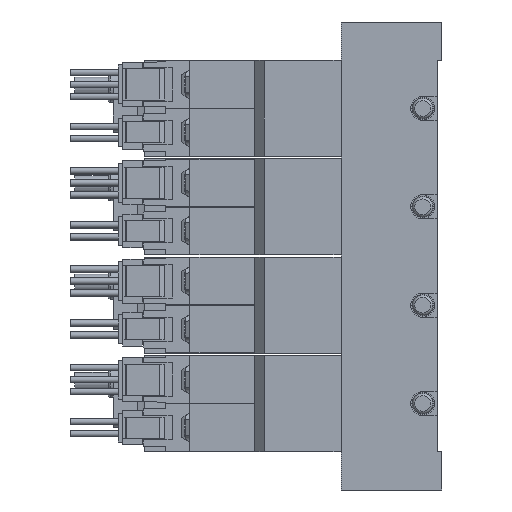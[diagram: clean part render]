
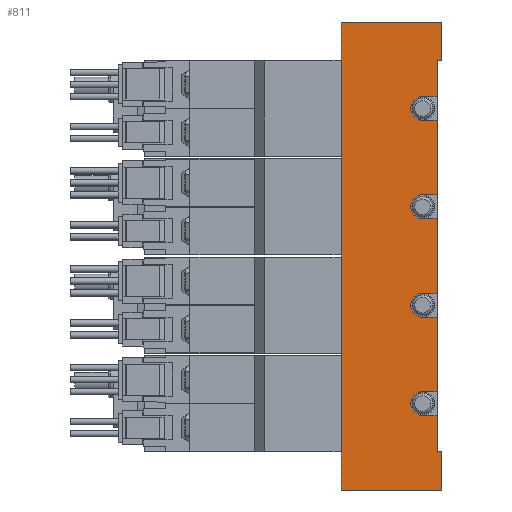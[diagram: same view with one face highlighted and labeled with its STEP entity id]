
A CAD part, left-side view. The second image highlights one B-rep face of the part: STEP entity #811.
In plain terms, the highlighted planar face has unit normal (-1, 0, 0) as drawn and (1, 0, 0) by its records, which use the part's own axes.
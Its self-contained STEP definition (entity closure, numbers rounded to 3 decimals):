
#811=ADVANCED_FACE('',(#1715),#1716,.F.);
#1715=FACE_OUTER_BOUND('',#2777,.T.);
#1716=PLANE('',#2778);
#2777=EDGE_LOOP('',(#6090,#6091,#6092,#6093,#6094,#6095,#6096,#6097,#6098,#6099,#6100,#6101,#6102,#6103,#6104,#6105,#6106,#6107,#6108,#6109,#6110,#6111,#6112,#6113));
#2778=AXIS2_PLACEMENT_3D('',#6114,#6115,#6116);
#6090=ORIENTED_EDGE('',*,*,#7646,.T.);
#6091=ORIENTED_EDGE('',*,*,#7647,.T.);
#6092=ORIENTED_EDGE('',*,*,#7648,.F.);
#6093=ORIENTED_EDGE('',*,*,#7649,.F.);
#6094=ORIENTED_EDGE('',*,*,#7650,.T.);
#6095=ORIENTED_EDGE('',*,*,#7651,.T.);
#6096=ORIENTED_EDGE('',*,*,#7652,.T.);
#6097=ORIENTED_EDGE('',*,*,#7653,.F.);
#6098=ORIENTED_EDGE('',*,*,#7654,.F.);
#6099=ORIENTED_EDGE('',*,*,#7655,.F.);
#6100=ORIENTED_EDGE('',*,*,#7656,.T.);
#6101=ORIENTED_EDGE('',*,*,#7657,.F.);
#6102=ORIENTED_EDGE('',*,*,#7658,.F.);
#6103=ORIENTED_EDGE('',*,*,#7659,.F.);
#6104=ORIENTED_EDGE('',*,*,#7660,.T.);
#6105=ORIENTED_EDGE('',*,*,#7661,.F.);
#6106=ORIENTED_EDGE('',*,*,#7662,.F.);
#6107=ORIENTED_EDGE('',*,*,#7663,.F.);
#6108=ORIENTED_EDGE('',*,*,#7664,.T.);
#6109=ORIENTED_EDGE('',*,*,#7665,.F.);
#6110=ORIENTED_EDGE('',*,*,#7666,.F.);
#6111=ORIENTED_EDGE('',*,*,#7667,.F.);
#6112=ORIENTED_EDGE('',*,*,#7668,.T.);
#6113=ORIENTED_EDGE('',*,*,#7669,.T.);
#6114=CARTESIAN_POINT('',(17.5,1.0,48.75));
#6115=DIRECTION('',(-1.0,0.0,0.0));
#6116=DIRECTION('',(0.0,0.0,1.0));
#7646=EDGE_CURVE('',#9433,#9434,#9435,.T.);
#7647=EDGE_CURVE('',#9434,#9436,#9437,.T.);
#7648=EDGE_CURVE('',#9438,#9436,#9439,.T.);
#7649=EDGE_CURVE('',#9440,#9438,#9441,.T.);
#7650=EDGE_CURVE('',#9440,#9442,#9443,.T.);
#7651=EDGE_CURVE('',#9442,#9444,#9445,.T.);
#7652=EDGE_CURVE('',#9444,#9446,#9447,.T.);
#7653=EDGE_CURVE('',#9448,#9446,#9449,.T.);
#7654=EDGE_CURVE('',#9450,#9448,#9451,.T.);
#7655=EDGE_CURVE('',#9452,#9450,#9453,.T.);
#7656=EDGE_CURVE('',#9452,#9454,#9455,.T.);
#7657=EDGE_CURVE('',#9456,#9454,#9457,.T.);
#7658=EDGE_CURVE('',#9458,#9456,#9459,.T.);
#7659=EDGE_CURVE('',#9460,#9458,#9461,.T.);
#7660=EDGE_CURVE('',#9460,#9462,#9463,.T.);
#7661=EDGE_CURVE('',#9464,#9462,#9465,.T.);
#7662=EDGE_CURVE('',#9466,#9464,#9467,.T.);
#7663=EDGE_CURVE('',#9468,#9466,#9469,.T.);
#7664=EDGE_CURVE('',#9468,#9470,#9471,.T.);
#7665=EDGE_CURVE('',#9472,#9470,#9473,.T.);
#7666=EDGE_CURVE('',#9474,#9472,#9475,.T.);
#7667=EDGE_CURVE('',#9476,#9474,#9477,.T.);
#7668=EDGE_CURVE('',#9476,#9478,#9479,.T.);
#7669=EDGE_CURVE('',#9478,#9433,#9480,.T.);
#9433=VERTEX_POINT('',#12375);
#9434=VERTEX_POINT('',#12376);
#9435=LINE('',#12377,#12378);
#9436=VERTEX_POINT('',#12379);
#9437=LINE('',#12380,#12381);
#9438=VERTEX_POINT('',#12382);
#9439=LINE('',#12383,#12384);
#9440=VERTEX_POINT('',#12385);
#9441=LINE('',#12386,#12387);
#9442=VERTEX_POINT('',#12388);
#9443=LINE('',#12389,#12390);
#9444=VERTEX_POINT('',#12391);
#9445=LINE('',#12392,#12393);
#9446=VERTEX_POINT('',#12394);
#9447=LINE('',#12395,#12396);
#9448=VERTEX_POINT('',#12397);
#9449=LINE('',#12398,#12399);
#9450=VERTEX_POINT('',#12400);
#9451=CIRCLE('',#12401,2.5);
#9452=VERTEX_POINT('',#12402);
#9453=LINE('',#12403,#12404);
#9454=VERTEX_POINT('',#12405);
#9455=LINE('',#12406,#12407);
#9456=VERTEX_POINT('',#12408);
#9457=LINE('',#12409,#12410);
#9458=VERTEX_POINT('',#12411);
#9459=CIRCLE('',#12412,2.5);
#9460=VERTEX_POINT('',#12413);
#9461=LINE('',#12414,#12415);
#9462=VERTEX_POINT('',#12416);
#9463=LINE('',#12417,#12418);
#9464=VERTEX_POINT('',#12419);
#9465=LINE('',#12420,#12421);
#9466=VERTEX_POINT('',#12422);
#9467=CIRCLE('',#12423,2.5);
#9468=VERTEX_POINT('',#12424);
#9469=LINE('',#12425,#12426);
#9470=VERTEX_POINT('',#12427);
#9471=LINE('',#12428,#12429);
#9472=VERTEX_POINT('',#12430);
#9473=LINE('',#12431,#12432);
#9474=VERTEX_POINT('',#12433);
#9475=CIRCLE('',#12434,2.5);
#9476=VERTEX_POINT('',#12435);
#9477=LINE('',#12436,#12437);
#9478=VERTEX_POINT('',#12438);
#9479=LINE('',#12439,#12440);
#9480=LINE('',#12441,#12442);
#12375=CARTESIAN_POINT('',(17.5,0.0,-40.75));
#12376=CARTESIAN_POINT('',(17.5,0.0,-48.75));
#12377=CARTESIAN_POINT('',(17.5,0.0,-40.75));
#12378=VECTOR('',#14070,1.0);
#12379=CARTESIAN_POINT('',(17.5,21.0,-48.75));
#12380=CARTESIAN_POINT('',(17.5,1.0,-48.75));
#12381=VECTOR('',#14071,1.0);
#12382=CARTESIAN_POINT('',(17.5,21.0,48.75));
#12383=CARTESIAN_POINT('',(17.5,21.0,48.75));
#12384=VECTOR('',#14072,1.0);
#12385=CARTESIAN_POINT('',(17.5,0.0,48.75));
#12386=CARTESIAN_POINT('',(17.5,1.0,48.75));
#12387=VECTOR('',#14073,1.0);
#12388=CARTESIAN_POINT('',(17.5,0.0,40.75));
#12389=CARTESIAN_POINT('',(17.5,0.0,48.75));
#12390=VECTOR('',#14074,1.0);
#12391=CARTESIAN_POINT('',(17.5,1.0,40.75));
#12392=CARTESIAN_POINT('',(17.5,0.0,40.75));
#12393=VECTOR('',#14075,1.0);
#12394=CARTESIAN_POINT('',(17.5,1.0,33.25));
#12395=CARTESIAN_POINT('',(17.5,1.0,48.75));
#12396=VECTOR('',#14076,1.0);
#12397=CARTESIAN_POINT('',(17.5,4.0,33.25));
#12398=CARTESIAN_POINT('',(17.5,1.0,33.25));
#12399=VECTOR('',#14077,1.0);
#12400=CARTESIAN_POINT('',(17.5,4.0,28.25));
#12401=AXIS2_PLACEMENT_3D('',#14078,#14079,#14080);
#12402=CARTESIAN_POINT('',(17.5,1.0,28.25));
#12403=CARTESIAN_POINT('',(17.5,1.0,28.25));
#12404=VECTOR('',#14081,1.0);
#12405=CARTESIAN_POINT('',(17.5,1.0,12.75));
#12406=CARTESIAN_POINT('',(17.5,1.0,48.75));
#12407=VECTOR('',#14082,1.0);
#12408=CARTESIAN_POINT('',(17.5,4.0,12.75));
#12409=CARTESIAN_POINT('',(17.5,1.0,12.75));
#12410=VECTOR('',#14083,1.0);
#12411=CARTESIAN_POINT('',(17.5,4.0,7.75));
#12412=AXIS2_PLACEMENT_3D('',#14084,#14085,#14086);
#12413=CARTESIAN_POINT('',(17.5,1.0,7.75));
#12414=CARTESIAN_POINT('',(17.5,1.0,7.75));
#12415=VECTOR('',#14087,1.0);
#12416=CARTESIAN_POINT('',(17.5,1.0,-7.75));
#12417=CARTESIAN_POINT('',(17.5,1.0,48.75));
#12418=VECTOR('',#14088,1.0);
#12419=CARTESIAN_POINT('',(17.5,4.0,-7.75));
#12420=CARTESIAN_POINT('',(17.5,1.0,-7.75));
#12421=VECTOR('',#14089,1.0);
#12422=CARTESIAN_POINT('',(17.5,4.0,-12.75));
#12423=AXIS2_PLACEMENT_3D('',#14090,#14091,#14092);
#12424=CARTESIAN_POINT('',(17.5,1.0,-12.75));
#12425=CARTESIAN_POINT('',(17.5,1.0,-12.75));
#12426=VECTOR('',#14093,1.0);
#12427=CARTESIAN_POINT('',(17.5,1.0,-28.25));
#12428=CARTESIAN_POINT('',(17.5,1.0,48.75));
#12429=VECTOR('',#14094,1.0);
#12430=CARTESIAN_POINT('',(17.5,4.0,-28.25));
#12431=CARTESIAN_POINT('',(17.5,1.0,-28.25));
#12432=VECTOR('',#14095,1.0);
#12433=CARTESIAN_POINT('',(17.5,4.0,-33.25));
#12434=AXIS2_PLACEMENT_3D('',#14096,#14097,#14098);
#12435=CARTESIAN_POINT('',(17.5,1.0,-33.25));
#12436=CARTESIAN_POINT('',(17.5,1.0,-33.25));
#12437=VECTOR('',#14099,1.0);
#12438=CARTESIAN_POINT('',(17.5,1.0,-40.75));
#12439=CARTESIAN_POINT('',(17.5,1.0,48.75));
#12440=VECTOR('',#14100,1.0);
#12441=CARTESIAN_POINT('',(17.5,4.0,-40.75));
#12442=VECTOR('',#14101,1.0);
#14070=DIRECTION('',(0.0,0.0,-1.0));
#14071=DIRECTION('',(0.0,1.0,0.0));
#14072=DIRECTION('',(0.0,0.0,-1.0));
#14073=DIRECTION('',(0.0,1.0,0.0));
#14074=DIRECTION('',(0.0,0.0,-1.0));
#14075=DIRECTION('',(0.0,1.0,0.0));
#14076=DIRECTION('',(0.0,0.0,-1.0));
#14077=DIRECTION('',(0.0,-1.0,0.0));
#14078=CARTESIAN_POINT('',(17.5,4.0,30.75));
#14079=DIRECTION('',(1.0,0.0,-0.0));
#14080=DIRECTION('',(0.0,0.0,1.0));
#14081=DIRECTION('',(0.0,1.0,0.0));
#14082=DIRECTION('',(0.0,0.0,-1.0));
#14083=DIRECTION('',(0.0,-1.0,0.0));
#14084=CARTESIAN_POINT('',(17.5,4.0,10.25));
#14085=DIRECTION('',(1.0,0.0,-0.0));
#14086=DIRECTION('',(0.0,0.0,1.0));
#14087=DIRECTION('',(0.0,1.0,0.0));
#14088=DIRECTION('',(0.0,0.0,-1.0));
#14089=DIRECTION('',(0.0,-1.0,0.0));
#14090=CARTESIAN_POINT('',(17.5,4.0,-10.25));
#14091=DIRECTION('',(1.0,0.0,-0.0));
#14092=DIRECTION('',(0.0,0.0,1.0));
#14093=DIRECTION('',(0.0,1.0,0.0));
#14094=DIRECTION('',(0.0,0.0,-1.0));
#14095=DIRECTION('',(0.0,-1.0,0.0));
#14096=CARTESIAN_POINT('',(17.5,4.0,-30.75));
#14097=DIRECTION('',(1.0,0.0,-0.0));
#14098=DIRECTION('',(0.0,0.0,1.0));
#14099=DIRECTION('',(0.0,1.0,0.0));
#14100=DIRECTION('',(0.0,0.0,-1.0));
#14101=DIRECTION('',(0.0,-1.0,0.0));
